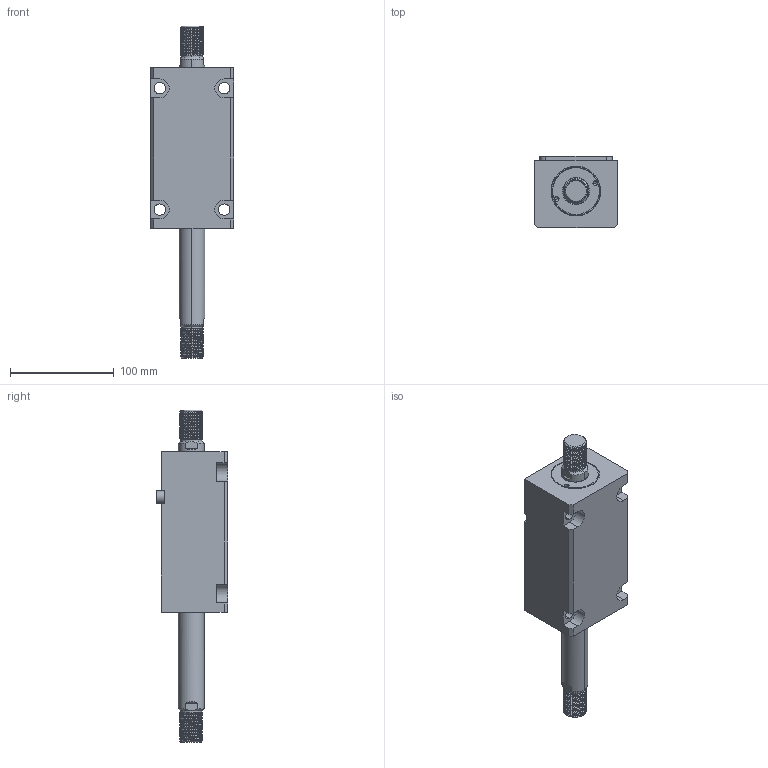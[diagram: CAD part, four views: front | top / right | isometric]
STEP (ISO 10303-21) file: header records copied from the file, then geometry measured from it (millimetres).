
FILE_DESCRIPTION (( 'STEP AP214' ), '1' );
FILE_NAME ('chtb-lwm40x85w_asm.STEP', '2018-05-31T00:50:19', ( 'Windows' ), ( 'Microsoft' ), 'SwSTEP 2.0', 'SolidWorks 2015', '' );
FILE_SCHEMA (( 'AUTOMOTIVE_DESIGN' ));
Length unit declared in the file: millimetre
Products named in the file (5): CHTB-SW40X85NHSG; CHTB-SD40QG; CHTB-LA40PJ; CHTB-LWM40X85NBT; chtb-lwm40x85w_asm
Assembly tree (4 placements, depth 2):
  chtb-lwm40x85w_asm
    CHTB-LWM40X85NBT
    CHTB-LA40PJ
    CHTB-SD40QG
    CHTB-SW40X85NHSG
Bounding box: 80 x 68.5 x 320 mm (x, y, z)
Volume: 767005.9 mm3; surface area: 124711.4 mm2
Topology: 4 solids, 4 shells, 252 faces, 699 edges, 465 vertices
Faces by surface type: cylinder 152, plane 57, bspline 18, cone 13, torus 12
Entity records: 17373 total; most frequent: CARTESIAN_POINT 11260, ORIENTED_EDGE 1386, DIRECTION 1092, EDGE_CURVE 693, VERTEX_POINT 465, AXIS2_PLACEMENT_3D 419, EDGE_LOOP 284, VECTOR 254
